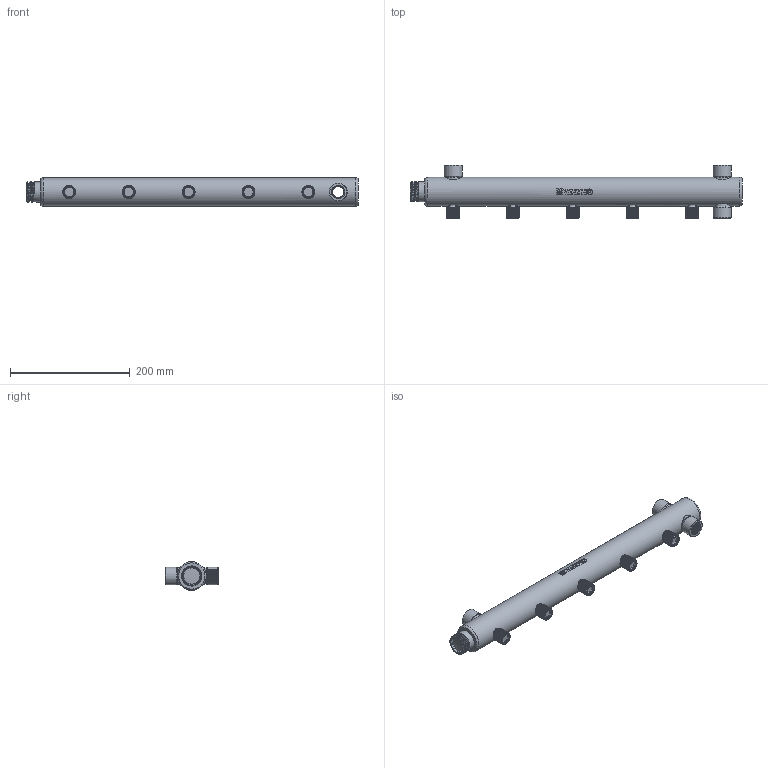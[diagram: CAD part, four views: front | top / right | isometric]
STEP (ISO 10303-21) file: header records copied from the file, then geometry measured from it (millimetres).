
FILE_DESCRIPTION(/* description */ (''),/* implementation_level */ '2;1');
FILE_NAME(/* name */ 'F:\Артём\00000\Работа удаленка\ГРВ\VTc.510.BS.060405.stp',/* time_stamp */ '2022-10-03T11:05:51+03:00',/* author */ ('almis'),/* organization */ (''),/* preprocessor_version */ 'ST-DEVELOPER v18',/* originating_system */ 'Autodesk Inventor 2020',/* authorisation */ '');
FILE_SCHEMA (('AUTOMOTIVE_DESIGN { 1 0 10303 214 3 1 1 }'));
Products named in the file (1): ГРВ-44.100
Bounding box: 555 x 89 x 48.02 mm (x, y, z)
Volume: 315762.6 mm3; surface area: 197037.3 mm2
Topology: 1 solids, 1 shells, 488 faces, 1320 edges, 871 vertices
Faces by surface type: cylinder 282, plane 132, bspline 44, cone 28, torus 2
Full cylindrical faces by diameter (mm): 15.7 x8, 17.7 x60, 19 x30, 19.3 x5, 21.3 x50, 22.6 x33, 27.1 x1, 28 x5, 28.9 x6, 30 x3, 33.5 x6, 41 x1, 48 x1
Entity records: 40320 total; most frequent: CARTESIAN_POINT 29106, ORIENTED_EDGE 2640, DIRECTION 1807, EDGE_CURVE 1320, VERTEX_POINT 871, AXIS2_PLACEMENT_3D 646, B_SPLINE_CURVE_WITH_KNOTS 604, EDGE_LOOP 537
